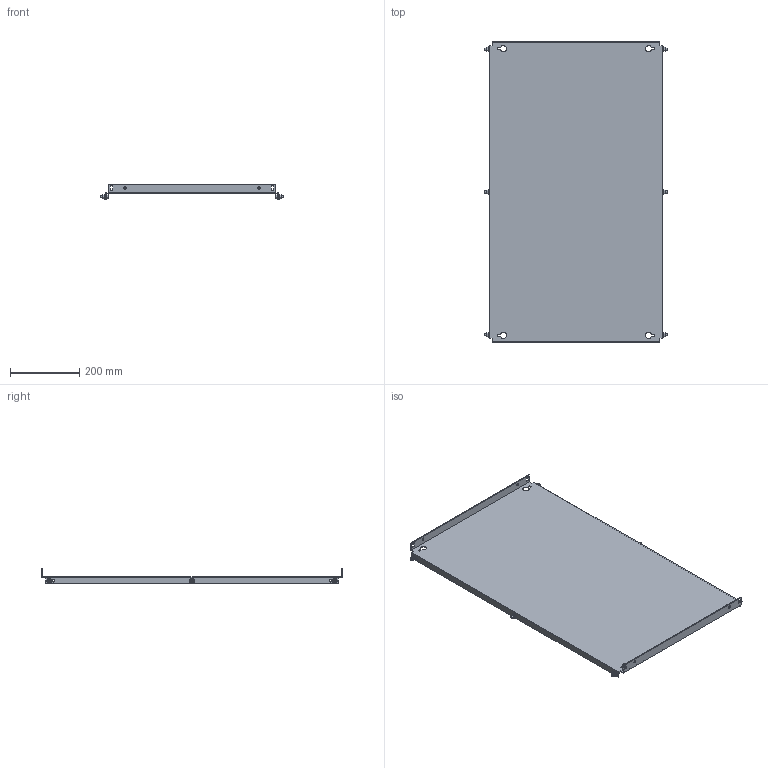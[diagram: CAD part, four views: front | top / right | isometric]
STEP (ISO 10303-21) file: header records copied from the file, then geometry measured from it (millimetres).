
FILE_DESCRIPTION(('Open CASCADE Model'),'2;1');
FILE_NAME('Open CASCADE Shape Model','2025-02-20T13:24:46',('Author'),( 'Open CASCADE'),'Open CASCADE STEP processor 7.8','Open CASCADE 7.8' ,'Unknown');
FILE_SCHEMA(('AUTOMOTIVE_DESIGN { 1 0 10303 214 1 1 1 1 }'));
Length unit declared in the file: millimetre
Products named in the file (4): Compound1; Solid1; Solid2; Solid3
Assembly tree (13 placements, depth 2):
  Compound1
    Solid1
    Solid2  x6
    Solid3  x6
Bounding box: 528 x 869 x 43 mm (x, y, z)
Volume: 977334.6 mm3; surface area: 983239.2 mm2
Topology: 13 solids, 13 shells, 420 faces, 1003 edges, 615 vertices
Faces by surface type: plane 192, cone 102, bspline 72, cylinder 36, torus 18
Full cylindrical faces by diameter (mm): 5 x6, 6 x12, 7 x14
Entity records: 4962 total; most frequent: CARTESIAN_POINT 1381, ORIENTED_EDGE 756, DIRECTION 650, EDGE_CURVE 378, VERTEX_POINT 245, AXIS2_PLACEMENT_3D 217, LINE 216, VECTOR 216
